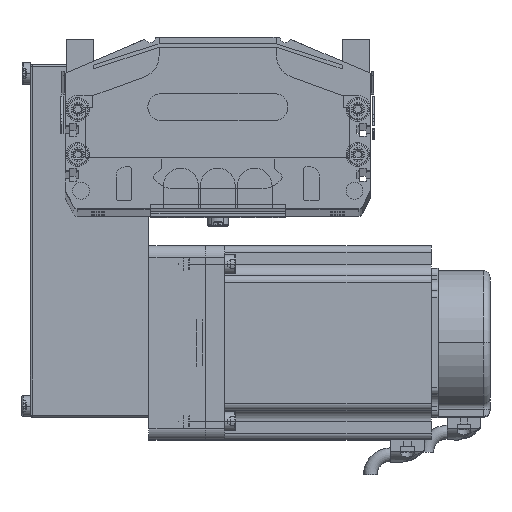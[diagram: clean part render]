
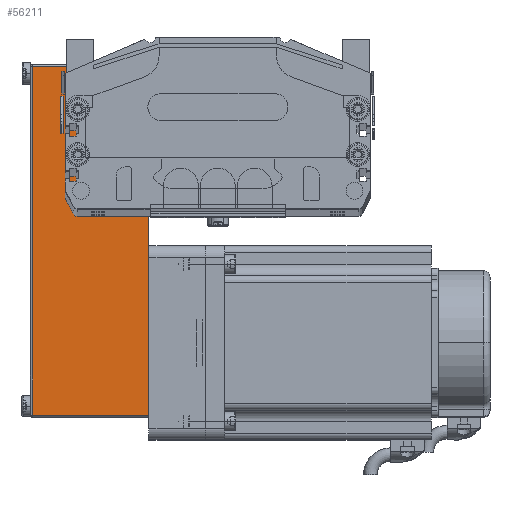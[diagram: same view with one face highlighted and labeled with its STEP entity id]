
A CAD part, top view. The second image highlights one B-rep face of the part: STEP entity #56211.
In plain terms, the highlighted planar face has unit normal (0, 0, 1) as drawn and (0, -1, 0) by its records, which use the part's own axes.
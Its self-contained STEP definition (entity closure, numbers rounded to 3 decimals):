
#13837 = CARTESIAN_POINT ( 'NONE',  ( 31., -40., 0. ) ) ;
#14523 = DIRECTION ( 'NONE',  ( 1., 0., 0. ) ) ;
#14525 = VECTOR ( 'NONE', #14523, 1000. ) ;
#14531 = CARTESIAN_POINT ( 'NONE',  ( 32., -40., 0. ) ) ;
#14533 = LINE ( 'NONE', #14531, #14525 ) ;
#15111 = CARTESIAN_POINT ( 'NONE',  ( -123.2, -40., 52.5 ) ) ;
#15112 = LINE ( 'NONE', #15111, #15199 ) ;
#15144 = LINE ( 'NONE', #15206, #15205 ) ;
#15147 = CARTESIAN_POINT ( 'NONE',  ( -123.2, -40., 0. ) ) ;
#15178 = CARTESIAN_POINT ( 'NONE',  ( -123.2, -40., 51.5 ) ) ;
#15179 = CARTESIAN_POINT ( 'NONE',  ( 32., -40., 52.5 ) ) ;
#15198 = DIRECTION ( 'NONE',  ( 0., 0., -1. ) ) ;
#15199 = VECTOR ( 'NONE', #15198, 1000. ) ;
#15204 = DIRECTION ( 'NONE',  ( -1., 0., 0. ) ) ;
#15205 = VECTOR ( 'NONE', #15204, 1000. ) ;
#15206 = CARTESIAN_POINT ( 'NONE',  ( 32., -40., 51.5 ) ) ;
#15214 = DIRECTION ( 'NONE',  ( 0., 0., 1. ) ) ;
#15215 = VECTOR ( 'NONE', #15214, 1000. ) ;
#15216 = CARTESIAN_POINT ( 'NONE',  ( 31., -40., 52.5 ) ) ;
#15217 = DIRECTION ( 'NONE',  ( -1., 0., 0. ) ) ;
#15218 = DIRECTION ( 'NONE',  ( 0., 1., 0. ) ) ;
#15220 = LINE ( 'NONE', #15216, #15215 ) ;
#15222 = AXIS2_PLACEMENT_3D ( 'NONE', #15179, #15218, #15217 ) ;
#15225 = FACE_OUTER_BOUND ( 'NONE', #56201, .T. ) ;
#15226 = CARTESIAN_POINT ( 'NONE',  ( 31., -40., 51.5 ) ) ;
#15231 = PLANE ( 'NONE',  #15222 ) ;
#55637 = VERTEX_POINT ( 'NONE', #13837 ) ;
#55682 = ORIENTED_EDGE ( 'NONE', *, *, #56213, .T. ) ;
#55920 = EDGE_CURVE ( 'NONE', #56199, #55637, #14533, .T. ) ;
#55932 = ORIENTED_EDGE ( 'NONE', *, *, #55920, .T. ) ;
#56191 = EDGE_CURVE ( 'NONE', #56208, #56206, #15144, .T. ) ;
#56193 = ORIENTED_EDGE ( 'NONE', *, *, #56196, .T. ) ;
#56195 = ORIENTED_EDGE ( 'NONE', *, *, #56191, .T. ) ;
#56196 = EDGE_CURVE ( 'NONE', #56206, #56199, #15112, .T. ) ;
#56199 = VERTEX_POINT ( 'NONE', #15147 ) ;
#56201 = EDGE_LOOP ( 'NONE', ( #55932, #55682, #56195, #56193 ) ) ;
#56206 = VERTEX_POINT ( 'NONE', #15178 ) ;
#56208 = VERTEX_POINT ( 'NONE', #15226 ) ;
#56211 = ADVANCED_FACE ( 'NONE', ( #15225 ), #15231, .F. ) ;
#56213 = EDGE_CURVE ( 'NONE', #55637, #56208, #15220, .T. ) ;
